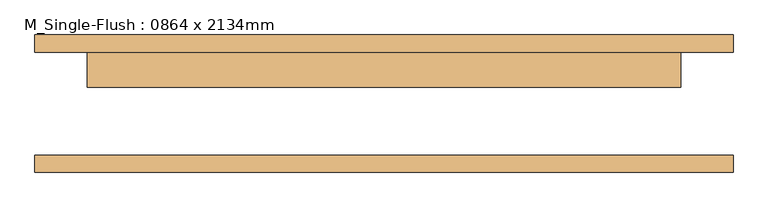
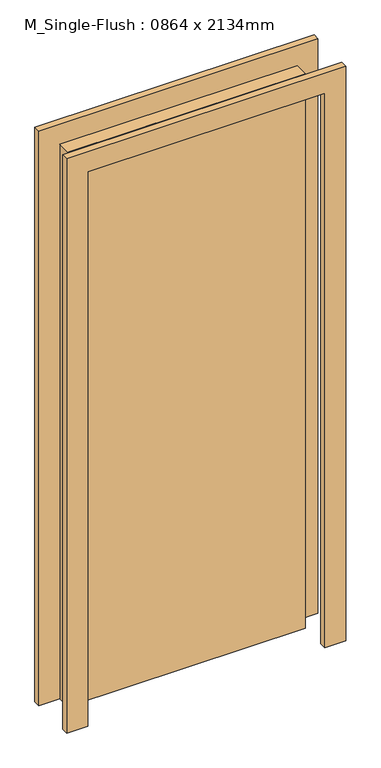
"""IFC4 building model written with IfcOpenShell, lengths in millimetres: door geometry, M_Single-Flush : 0864 x 2134mm."""

from ifc_helpers import new_model, si_unit, frame, origin, origin_with_axes, place, context, project, spatial, polyline, outline, extrude, source, transform, mapped, element, save


def m_single_flush_0864_x_2134mm_191ab4f9(model_context):
    return source(origin(), model_context, "Body", "SweptSolid", [
        extrude(outline(polyline([(2210.0, -508.0), (0.0, -508.0), (0.0, -432.0), (2134.0, -432.0), (2134.0, 432.0), (0.0, 432.0), (0.0, 508.0), (2210.0, 508.0), (2210.0, -508.0)])), frame((0.0, 75.0, 0.0), z_axis=(0.0, 1.0, 0.0), x_axis=(0.0, 0.0, 1.0)), (0.0, 0.0, 1.0), 25.0),
        extrude(outline(polyline([(2210.0, 508.0), (2210.0, -508.0), (0.0, -508.0), (0.0, -432.0), (2134.0, -432.0), (2134.0, 432.0), (0.0, 432.0), (0.0, 508.0), (2210.0, 508.0)])), frame((0.0, -100.0, 0.0), z_axis=(0.0, 1.0, 0.0), x_axis=(0.0, 0.0, 1.0)), (0.0, 0.0, 1.0), 25.0),
        extrude(outline(polyline([(432.0, 24.0), (-432.0, 24.0), (-432.0, 75.0), (432.0, 75.0), (432.0, 24.0)])), origin_with_axes(), (0.0, 0.0, 1.0), 2134.0),
    ])


if __name__ == "__main__":
    model = new_model("IFC4")
    model_context = context("Model", 3, world=origin())
    ifc_project = project(units=[si_unit("LENGTHUNIT", "METRE", prefix="MILLI")], contexts=[model_context])
    site = spatial("IfcSite", under=ifc_project)
    building = spatial("IfcBuilding", under=site)
    placement = place(None, origin())
    m_single_flush_0864_x_2134mm_shape = m_single_flush_0864_x_2134mm_191ab4f9(model_context)
    element("IfcDoor", 1, ObjectType="M_Single-Flush : 0864 x 2134mm", at=placement, inside=building, context=model_context, shape_type="MappedRepresentation", body=[
        mapped(m_single_flush_0864_x_2134mm_shape, transform((0.0, 0.0, 0.0), x_axis=(1.0, 0.0, 0.0), y_axis=(0.0, 1.0, 0.0), z_axis=(0.0, 0.0, 1.0))),
    ])
    save(model, "model.ifc")
